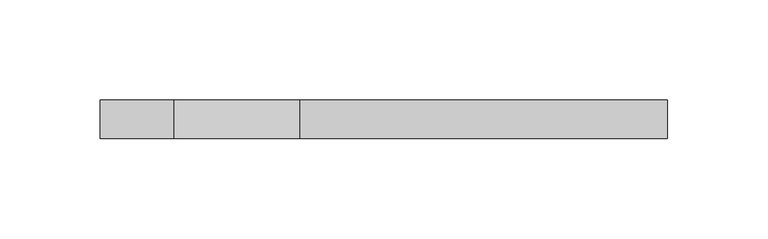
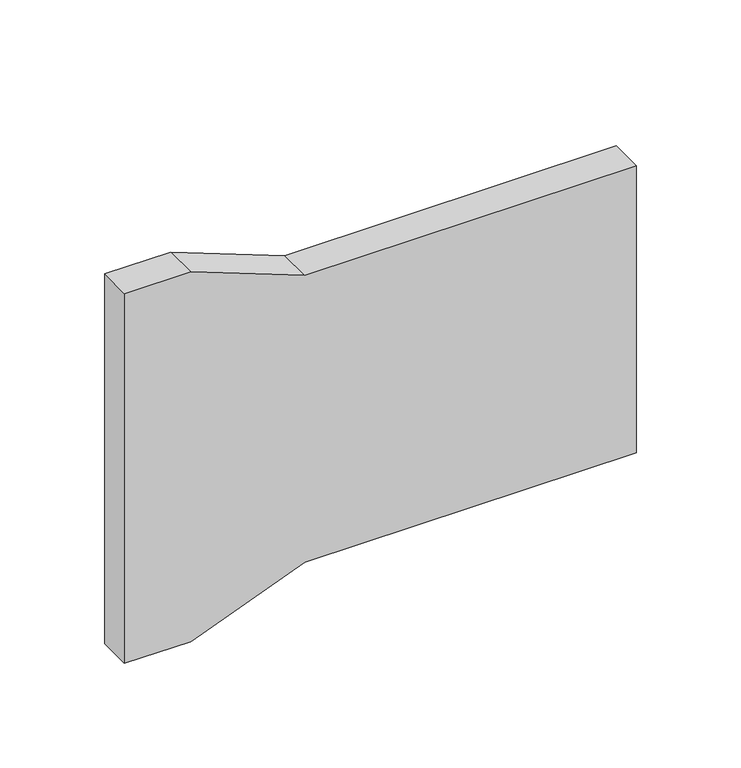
"""IFC4 building model written with IfcOpenShell, lengths in millimetres: proxy geometry, AERO^TABLE 4_4260 WEDGE-POWER LID."""

import ifcopenshell
import ifcopenshell.guid

model = None  # the IFC model being written
_history = None  # IfcOwnerHistory: only IFC2X3 demands one
_inside = {}  # id of a spatial element -> (the spatial element, [elements in it])
_under = {}  # id of a project, library or spatial element -> (it, [spatial elements below it])
_declared = {}  # id of a project -> (the project, [libraries it declares])
_typed = {}  # id of a type object -> (the type object, [elements of that type])
_made_of = {}  # id of a material, layer set ... -> (it, [elements and type objects made of it])


def new_model(schema):
    """Start an empty IFC model of exactly this schema.

    Asked for "IFC4X3", IfcOpenShell would pick the latest addendum, in which some entities
    have other attributes; the version numbers below select the first issue.
    IFC2X3 requires an IfcOwnerHistory on every rooted entity: one is made here for all.
    """
    global model, _history
    if schema == "IFC4X3":
        model = ifcopenshell.file(schema_version=(4, 3, 0, 0))
    else:
        model = ifcopenshell.file(schema=schema)
    _inside.clear()
    _under.clear()
    _declared.clear()
    _typed.clear()
    _made_of.clear()
    _history = None
    if model.schema == "IFC2X3":
        org = make("IfcOrganization", Name="unknown")
        user = make(
            "IfcPersonAndOrganization",
            ThePerson=make("IfcPerson", FamilyName="unknown"),
            TheOrganization=org,
        )
        app = make(
            "IfcApplication",
            ApplicationDeveloper=org,
            Version="unknown",
            ApplicationFullName="unknown",
            ApplicationIdentifier="unknown",
        )
        _history = make(
            "IfcOwnerHistory",
            OwningUser=user,
            OwningApplication=app,
            ChangeAction="ADDED",
            CreationDate=0,
        )
    return model


def make(cls, **values):
    """One entity of the class cls with the attributes given. An attribute that is None is left unset."""
    return model.create_entity(
        cls, **{name: value for name, value in values.items() if value is not None}
    )


def rooted(cls, **values):
    """An entity with a GlobalId (a new one), such as an element, a storey or a relation."""
    return make(cls, GlobalId=ifcopenshell.guid.new(), OwnerHistory=_history, **values)


def si_unit(unit_type, name, prefix=None):
    """IfcSIUnit, for example si_unit("LENGTHUNIT", "METRE", prefix="MILLI")."""
    return make("IfcSIUnit", UnitType=unit_type, Prefix=prefix, Name=name)


def assignment(units):
    """IfcUnitAssignment: the units of a project."""
    return None if units is None else make("IfcUnitAssignment", Units=units)


def point(xyz):
    """IfcCartesianPoint."""
    return None if xyz is None else make("IfcCartesianPoint", Coordinates=xyz)


def direction(xyz):
    """IfcDirection."""
    return None if xyz is None else make("IfcDirection", DirectionRatios=xyz)


def frame(location, z_axis=None, x_axis=None):
    """IfcAxis2Placement3D, a coordinate frame: its origin and axes. An axis left out is left unset."""
    return make(
        "IfcAxis2Placement3D",
        Location=point(location),
        Axis=direction(z_axis),
        RefDirection=direction(x_axis),
    )


def origin():
    """The frame at (0, 0, 0) with its axes left unset."""
    return frame((0.0, 0.0, 0.0))


def place(relative_to, where):
    """IfcLocalPlacement: puts the frame where relative to a parent placement (None: the world)."""
    return make(
        "IfcLocalPlacement", PlacementRelTo=relative_to, RelativePlacement=where
    )


def context(
    kind, dimensions, precision=None, world=None, true_north=None, identifier=None
):
    """IfcGeometricRepresentationContext, for example the 3D "Model" context."""
    return make(
        "IfcGeometricRepresentationContext",
        ContextIdentifier=identifier,
        ContextType=kind,
        CoordinateSpaceDimension=dimensions,
        Precision=precision,
        WorldCoordinateSystem=world,
        TrueNorth=true_north,
    )


def project(units=None, contexts=None):
    """IfcProject with its units and contexts."""
    return rooted(
        "IfcProject",
        Name="project",
        RepresentationContexts=contexts,
        UnitsInContext=assignment(units),
    )


def spatial(cls, under=None, at=None, **own):
    """A site, building, storey or space (cls), placed at a placement, below another one or the project."""
    s = rooted(cls, ObjectPlacement=at, **own)
    if under is not None:
        _under.setdefault(under.id(), (under, []))[1].append(s)
    return s


def polyline(points):
    """IfcPolyline through the points."""
    return make("IfcPolyline", Points=[point(p) for p in points])


def outline(outer, holes=None, kind="AREA"):
    """IfcArbitraryClosedProfileDef: a profile drawn as a closed curve; with holes, ...WithVoids."""
    if holes is None:
        return make("IfcArbitraryClosedProfileDef", ProfileType=kind, OuterCurve=outer)
    return make(
        "IfcArbitraryProfileDefWithVoids",
        ProfileType=kind,
        OuterCurve=outer,
        InnerCurves=holes,
    )


def extrude(swept, where, along, depth):
    """IfcExtrudedAreaSolid: the profile swept, set in the frame where, extruded along a direction by depth."""
    return make(
        "IfcExtrudedAreaSolid",
        SweptArea=swept,
        Position=where,
        ExtrudedDirection=direction(along),
        Depth=depth,
    )


def shape(context_of_items, identifier, shape_type, items):
    """IfcShapeRepresentation: the items that make up one representation, for example the "Body"."""
    return make(
        "IfcShapeRepresentation",
        ContextOfItems=context_of_items,
        RepresentationIdentifier=identifier,
        RepresentationType=shape_type,
        Items=items,
    )


def source(mapping_origin, context_of_items, identifier, shape_type, items):
    """IfcRepresentationMap: a shape defined once, which mapped items show again and again."""
    return make(
        "IfcRepresentationMap",
        MappingOrigin=mapping_origin,
        MappedRepresentation=shape(context_of_items, identifier, shape_type, items),
    )


def transform(
    local_origin,
    x_axis=None,
    y_axis=None,
    z_axis=None,
    scale=None,
    scale2=None,
    scale3=None,
    uniform=True,
):
    """IfcCartesianTransformationOperator3D, or its non-uniform kind. x_axis, y_axis, z_axis: its Axis1, 2, 3."""
    if uniform:
        return make(
            "IfcCartesianTransformationOperator3D",
            Axis1=direction(x_axis),
            Axis2=direction(y_axis),
            LocalOrigin=point(local_origin),
            Scale=scale,
            Axis3=direction(z_axis),
        )
    return make(
        "IfcCartesianTransformationOperator3DnonUniform",
        Axis1=direction(x_axis),
        Axis2=direction(y_axis),
        LocalOrigin=point(local_origin),
        Scale=scale,
        Axis3=direction(z_axis),
        Scale2=scale2,
        Scale3=scale3,
    )


def mapped(mapping_source, mapping_target):
    """IfcMappedItem: shows the shape of a source again, moved by a transform."""
    return make(
        "IfcMappedItem", MappingSource=mapping_source, MappingTarget=mapping_target
    )


def made_of(thing, what):
    """Note that an element or type object is made of a material, layer set ...; save() writes the relation."""
    if what is not None:
        _made_of.setdefault(what.id(), (what, []))[1].append(thing)
    return thing


def element(
    cls,
    number,
    at=None,
    inside=None,
    cuts=None,
    type_object=None,
    material=None,
    context=None,
    identifier="Body",
    shape_type=None,
    held_by="IfcProductDefinitionShape",
    body=None,
    shapes=None,
    **own,
):
    """One element of the class cls, such as IfcWall. Its Tag is "e" and its number.

    at: its placement. inside: the storey or other place that contains it. cuts: it is an
    opening in that element (IfcRelVoidsElement). A single representation is given by context,
    identifier, shape_type and body (its items); several are given by shapes. held_by: the class
    of the entity that holds the representations. save() writes the other relations.
    """
    e = rooted(cls, Tag="e%d" % number, ObjectPlacement=at, **own)
    if body is not None:
        shapes = [shape(context, identifier, shape_type, body)]
    if shapes is not None:
        e.Representation = make(held_by, Representations=shapes)
    if inside is not None:
        _inside.setdefault(inside.id(), (inside, []))[1].append(e)
    if cuts is not None:
        rooted(
            "IfcRelVoidsElement", RelatingBuildingElement=cuts, RelatedOpeningElement=e
        )
    if type_object is not None:
        _typed.setdefault(type_object.id(), (type_object, []))[1].append(e)
    return made_of(e, material)


def aggregate(whole, parts):
    """IfcRelAggregates: a whole, such as a stair, and the parts it consists of."""
    return rooted("IfcRelAggregates", RelatingObject=whole, RelatedObjects=parts)


def save(model, path):
    """Write the relations noted so far, then the file.

    IfcRelAggregates (storeys below a building ...), IfcRelContainedInSpatialStructure (elements
    in a storey), IfcRelDefinesByType, IfcRelAssociatesMaterial and IfcRelDeclares: one each for
    every whole, place, type object, material and project.
    """
    for whole, parts in _under.values():
        aggregate(whole, parts)
    for where, things in _inside.values():
        rooted(
            "IfcRelContainedInSpatialStructure",
            RelatedElements=things,
            RelatingStructure=where,
        )
    for kind, things in _typed.values():
        rooted("IfcRelDefinesByType", RelatedObjects=things, RelatingType=kind)
    for what, things in _made_of.values():
        rooted("IfcRelAssociatesMaterial", RelatedObjects=things, RelatingMaterial=what)
    for by, libraries in _declared.values():
        rooted("IfcRelDeclares", RelatingContext=by, RelatedDefinitions=libraries)
    model.write(path)


def generic_models_0eea9f45(model_context):
    return source(origin(), model_context, "Body", "SweptSolid", [
        extrude(outline(polyline([(0.0, 36.5125), (0.0, 0.0), (-215.9, 0.0), (-215.9, 36.5125), (-191.690625, 99.5800781), (-191.690625, 282.575), (-24.2062, 282.575), (-24.2062, 99.5718069), (0.0, 36.5125)])), frame((0.0, 0.0, 0.0), z_axis=(0.0, 1.0, 0.0), x_axis=(0.0, 0.0, 1.0)), (0.0, 0.0, 1.0), 19.05),
    ])


if __name__ == "__main__":
    model = new_model("IFC4")
    model_context = context("Model", 3, world=origin())
    ifc_project = project(units=[si_unit("LENGTHUNIT", "METRE", prefix="MILLI")], contexts=[model_context])
    site = spatial("IfcSite", under=ifc_project)
    building = spatial("IfcBuilding", under=site)
    placement = place(None, origin())
    generic_models_shape = generic_models_0eea9f45(model_context)
    element("IfcBuildingElementProxy", 1, Name="AERO^TABLE 4_4260 WEDGE-POWER LID", ObjectType="AERO^TABLE 4_4260 WEDGE-POWER LID", at=placement, inside=building, context=model_context, shape_type="MappedRepresentation", body=[
        mapped(generic_models_shape, transform((0.0, 0.0, 0.0), x_axis=(1.0, 0.0, 0.0), y_axis=(0.0, 1.0, 0.0), z_axis=(0.0, 0.0, 1.0))),
    ])
    save(model, "model.ifc")
